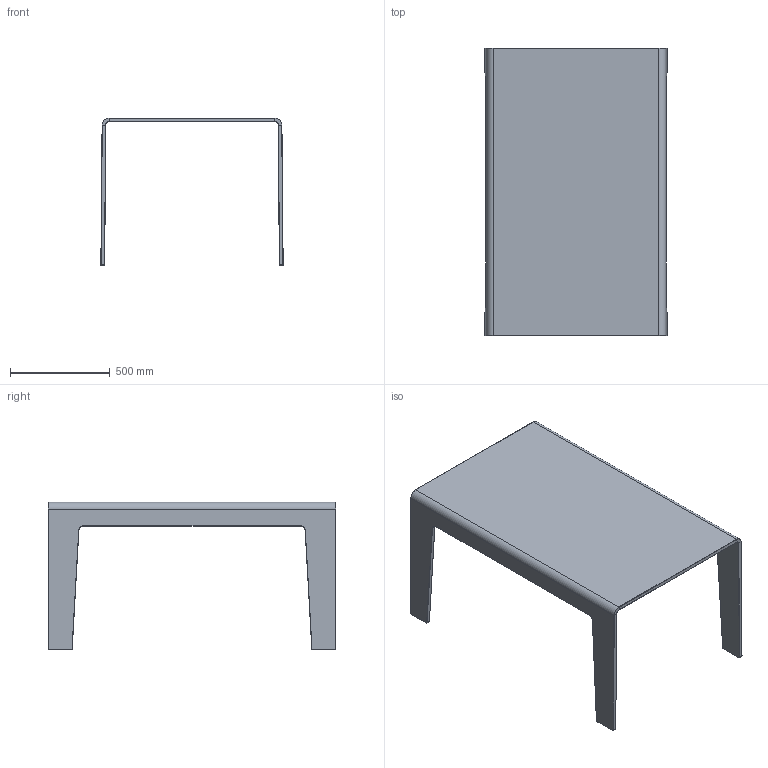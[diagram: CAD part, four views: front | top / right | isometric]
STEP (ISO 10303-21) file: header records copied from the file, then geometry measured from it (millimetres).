
FILE_DESCRIPTION((''),'2;1');
FILE_NAME('C:\AutodeskVault\AreaLavoro\Progetti\SoVeT Italia\1. Tavoli_Dining tables\Frog\Web file\Frog Web\P1524.stp','2012-05-09T10:04:39',('Gianluca'),('So.Ve.T. s.r.l.'),'Autodesk Inventor 2011','Autodesk Inventor 2011','IL PROGETTO E'' DI ESCLUSIVA PROPRIETA'' DELLA SO.VE.T. srl. E'' VIETATA OGNI RIPRODUZIONE TOTALE O PARZIALE E QUALSIASI UTILIZZO NON AUTORIZZATO.');
FILE_SCHEMA(('AUTOMOTIVE_DESIGN { 1 0 10303 214 1 1 1 1 }'));
Length unit declared in the file: millimetre
Products named in the file (1): P1524 Contorno semplificato
Bounding box: 912.71 x 1440 x 740.06 mm (x, y, z)
Volume: 36041516.1 mm3; surface area: 3969795.3 mm2
Topology: 1 solids, 1 shells, 106 faces, 232 edges, 128 vertices
Faces by surface type: plane 58, cone 32, cylinder 16
Entity records: 2939 total; most frequent: DIRECTION 510, CARTESIAN_POINT 467, ORIENTED_EDGE 464, EDGE_CURVE 232, AXIS2_PLACEMENT_3D 171, VECTOR 168, LINE 168, VERTEX_POINT 128
